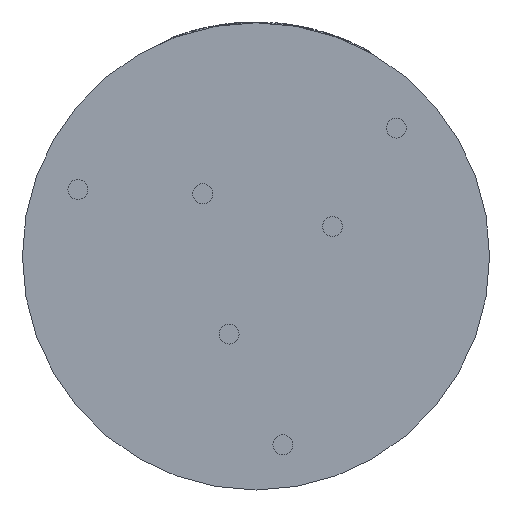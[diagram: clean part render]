
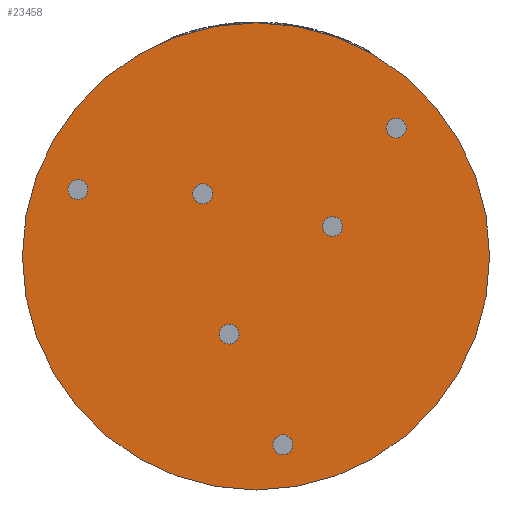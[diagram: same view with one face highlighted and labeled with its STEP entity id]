
A CAD part, front view. The second image highlights one B-rep face of the part: STEP entity #23458.
In plain terms, the highlighted planar face has unit normal (0, -1, 0).
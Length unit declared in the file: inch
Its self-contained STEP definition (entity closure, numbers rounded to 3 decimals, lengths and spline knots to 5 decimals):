
#118 = CARTESIAN_POINT ( 'NONE',  ( -0.27296, -0.25138, 0.32087 ) ) ;
#319 = FACE_BOUND ( 'NONE', #26623, .T. ) ;
#339 = CARTESIAN_POINT ( 'NONE',  ( -0.1378, -0.25138, -0.44907 ) ) ;
#659 = DIRECTION ( 'NONE',  ( 0., -1., 0. ) ) ;
#717 = CARTESIAN_POINT ( 'NONE',  ( 0., -0.25138, 0. ) ) ;
#1638 = EDGE_CURVE ( 'NONE', #24843, #20202, #19638, .T. ) ;
#2016 = ORIENTED_EDGE ( 'NONE', *, *, #8172, .F. ) ;
#2622 = CARTESIAN_POINT ( 'NONE',  ( -0.91237, -0.25138, 0.39311 ) ) ;
#2709 = VERTEX_POINT ( 'NONE', #10670 ) ;
#2942 = DIRECTION ( 'NONE',  ( 0., 0., 1. ) ) ;
#3770 = DIRECTION ( 'NONE',  ( 0., -1., 0. ) ) ;
#4044 = DIRECTION ( 'NONE',  ( 0., 0., 1. ) ) ;
#4046 = CARTESIAN_POINT ( 'NONE',  ( 0., -0.25138, 0. ) ) ;
#4177 = DIRECTION ( 'NONE',  ( 0., -1., 0. ) ) ;
#4471 = CARTESIAN_POINT ( 'NONE',  ( 0.1378, -0.25138, -0.91363 ) ) ;
#4706 = DIRECTION ( 'NONE',  ( 0., -1., 0. ) ) ;
#4792 = EDGE_CURVE ( 'NONE', #5567, #18355, #25924, .T. ) ;
#5003 = FACE_OUTER_BOUND ( 'NONE', #8618, .T. ) ;
#5093 = ORIENTED_EDGE ( 'NONE', *, *, #21778, .F. ) ;
#5118 = CARTESIAN_POINT ( 'NONE',  ( 0.1378, -0.25138, -0.96462 ) ) ;
#5169 = EDGE_CURVE ( 'NONE', #20565, #5575, #24056, .T. ) ;
#5448 = CIRCLE ( 'NONE', #17733, 0.05098 ) ;
#5539 = ORIENTED_EDGE ( 'NONE', *, *, #14325, .F. ) ;
#5567 = VERTEX_POINT ( 'NONE', #18319 ) ;
#5575 = VERTEX_POINT ( 'NONE', #339 ) ;
#5608 = CIRCLE ( 'NONE', #23639, 1.19685 ) ;
#5627 = DIRECTION ( 'NONE',  ( 0., 0., 1. ) ) ;
#5649 = CIRCLE ( 'NONE', #25829, 0.05098 ) ;
#6210 = ORIENTED_EDGE ( 'NONE', *, *, #19554, .F. ) ;
#6538 = AXIS2_PLACEMENT_3D ( 'NONE', #118, #28016, #2942 ) ;
#6670 = ORIENTED_EDGE ( 'NONE', *, *, #8939, .F. ) ;
#7434 = ORIENTED_EDGE ( 'NONE', *, *, #4792, .F. ) ;
#7588 = DIRECTION ( 'NONE',  ( 0., -1., 0. ) ) ;
#8123 = ORIENTED_EDGE ( 'NONE', *, *, #24764, .F. ) ;
#8172 = EDGE_CURVE ( 'NONE', #28780, #19454, #5608, .T. ) ;
#8437 = CARTESIAN_POINT ( 'NONE',  ( 0., -0.25138, 1.19685 ) ) ;
#8518 = CIRCLE ( 'NONE', #27859, 0.05098 ) ;
#8575 = CARTESIAN_POINT ( 'NONE',  ( 0., -0.25138, -1.19685 ) ) ;
#8599 = CARTESIAN_POINT ( 'NONE',  ( 0.39228, -0.25138, 0.15354 ) ) ;
#8618 = EDGE_LOOP ( 'NONE', ( #6670, #2016 ) ) ;
#8843 = DIRECTION ( 'NONE',  ( 0., 0., 1. ) ) ;
#8939 = EDGE_CURVE ( 'NONE', #19454, #28780, #9880, .T. ) ;
#9093 = CARTESIAN_POINT ( 'NONE',  ( 0.1378, -0.25138, -1.0156 ) ) ;
#9440 = AXIS2_PLACEMENT_3D ( 'NONE', #5118, #4177, #8843 ) ;
#9691 = CARTESIAN_POINT ( 'NONE',  ( -0.91237, -0.25138, 0.29114 ) ) ;
#9697 = VERTEX_POINT ( 'NONE', #14400 ) ;
#9880 = CIRCLE ( 'NONE', #12480, 1.19685 ) ;
#9897 = VERTEX_POINT ( 'NONE', #22514 ) ;
#9967 = AXIS2_PLACEMENT_3D ( 'NONE', #10852, #27107, #14526 ) ;
#10073 = DIRECTION ( 'NONE',  ( 0., 0., -1. ) ) ;
#10096 = EDGE_CURVE ( 'NONE', #18355, #5567, #24020, .T. ) ;
#10180 = DIRECTION ( 'NONE',  ( 0., -1., 0. ) ) ;
#10201 = EDGE_LOOP ( 'NONE', ( #27551, #11312 ) ) ;
#10670 = CARTESIAN_POINT ( 'NONE',  ( 0.71916, -0.25138, 0.70846 ) ) ;
#10852 = CARTESIAN_POINT ( 'NONE',  ( -0.27296, -0.25138, 0.32087 ) ) ;
#11312 = ORIENTED_EDGE ( 'NONE', *, *, #1638, .F. ) ;
#11852 = EDGE_LOOP ( 'NONE', ( #24642, #8123 ) ) ;
#12324 = FACE_BOUND ( 'NONE', #12755, .T. ) ;
#12360 = VERTEX_POINT ( 'NONE', #23931 ) ;
#12430 = EDGE_LOOP ( 'NONE', ( #5093, #5539 ) ) ;
#12480 = AXIS2_PLACEMENT_3D ( 'NONE', #717, #25285, #16438 ) ;
#12755 = EDGE_LOOP ( 'NONE', ( #7434, #20853 ) ) ;
#13900 = EDGE_CURVE ( 'NONE', #2709, #9697, #5649, .T. ) ;
#14213 = FACE_BOUND ( 'NONE', #12430, .T. ) ;
#14325 = EDGE_CURVE ( 'NONE', #16046, #21296, #8518, .T. ) ;
#14400 = CARTESIAN_POINT ( 'NONE',  ( 0.71916, -0.25138, 0.6065 ) ) ;
#14526 = DIRECTION ( 'NONE',  ( 0., 0., 1. ) ) ;
#14884 = CIRCLE ( 'NONE', #9440, 0.05098 ) ;
#15482 = DIRECTION ( 'NONE',  ( 0., -1., 0. ) ) ;
#15930 = DIRECTION ( 'NONE',  ( 0., 0., 1. ) ) ;
#16046 = VERTEX_POINT ( 'NONE', #9691 ) ;
#16158 = CARTESIAN_POINT ( 'NONE',  ( 0.39228, -0.25138, 0.15354 ) ) ;
#16320 = CARTESIAN_POINT ( 'NONE',  ( 0.71916, -0.25138, 0.65748 ) ) ;
#16385 = DIRECTION ( 'NONE',  ( 0., 0., 1. ) ) ;
#16438 = DIRECTION ( 'NONE',  ( 0., 0., -1. ) ) ;
#16595 = EDGE_CURVE ( 'NONE', #9897, #12360, #21866, .T. ) ;
#16669 = CARTESIAN_POINT ( 'NONE',  ( -0.91237, -0.25138, 0.34213 ) ) ;
#17112 = CARTESIAN_POINT ( 'NONE',  ( 0.71916, -0.25138, 0.65748 ) ) ;
#17114 = AXIS2_PLACEMENT_3D ( 'NONE', #19988, #7588, #23729 ) ;
#17733 = AXIS2_PLACEMENT_3D ( 'NONE', #8599, #15482, #15930 ) ;
#18319 = CARTESIAN_POINT ( 'NONE',  ( -0.27296, -0.25138, 0.37185 ) ) ;
#18355 = VERTEX_POINT ( 'NONE', #23029 ) ;
#18575 = EDGE_CURVE ( 'NONE', #9697, #2709, #27601, .T. ) ;
#18757 = DIRECTION ( 'NONE',  ( 0., 1., 0. ) ) ;
#18857 = AXIS2_PLACEMENT_3D ( 'NONE', #20198, #21599, #4044 ) ;
#19288 = CARTESIAN_POINT ( 'NONE',  ( 0., -0.25138, 0. ) ) ;
#19454 = VERTEX_POINT ( 'NONE', #8437 ) ;
#19554 = EDGE_CURVE ( 'NONE', #5575, #20565, #24419, .T. ) ;
#19638 = CIRCLE ( 'NONE', #27017, 0.05098 ) ;
#19723 = FACE_BOUND ( 'NONE', #28574, .T. ) ;
#19829 = CARTESIAN_POINT ( 'NONE',  ( -0.1378, -0.25138, -0.3471 ) ) ;
#19876 = CARTESIAN_POINT ( 'NONE',  ( -0.91237, -0.25138, 0.34213 ) ) ;
#19988 = CARTESIAN_POINT ( 'NONE',  ( -0.1378, -0.25138, -0.39809 ) ) ;
#20198 = CARTESIAN_POINT ( 'NONE',  ( -0.1378, -0.25138, -0.39809 ) ) ;
#20202 = VERTEX_POINT ( 'NONE', #4471 ) ;
#20546 = CIRCLE ( 'NONE', #28804, 0.05098 ) ;
#20565 = VERTEX_POINT ( 'NONE', #19829 ) ;
#20708 = PLANE ( 'NONE',  #27046 ) ;
#20853 = ORIENTED_EDGE ( 'NONE', *, *, #10096, .F. ) ;
#20961 = AXIS2_PLACEMENT_3D ( 'NONE', #16158, #10180, #23122 ) ;
#21048 = ORIENTED_EDGE ( 'NONE', *, *, #5169, .F. ) ;
#21296 = VERTEX_POINT ( 'NONE', #2622 ) ;
#21599 = DIRECTION ( 'NONE',  ( 0., -1., 0. ) ) ;
#21778 = EDGE_CURVE ( 'NONE', #21296, #16046, #20546, .T. ) ;
#21866 = CIRCLE ( 'NONE', #20961, 0.05098 ) ;
#22514 = CARTESIAN_POINT ( 'NONE',  ( 0.39228, -0.25138, 0.20453 ) ) ;
#23029 = CARTESIAN_POINT ( 'NONE',  ( -0.27296, -0.25138, 0.26988 ) ) ;
#23122 = DIRECTION ( 'NONE',  ( 0., 0., 1. ) ) ;
#23157 = DIRECTION ( 'NONE',  ( 0., 0., 1. ) ) ;
#23189 = ORIENTED_EDGE ( 'NONE', *, *, #13900, .F. ) ;
#23276 = DIRECTION ( 'NONE',  ( 0., 0., 1. ) ) ;
#23458 = ADVANCED_FACE ( 'NONE', ( #14213, #12324, #19723, #26316, #23481, #319, #5003 ), #20708, .T. ) ;
#23481 = FACE_BOUND ( 'NONE', #10201, .T. ) ;
#23628 = DIRECTION ( 'NONE',  ( 0., -1., 0. ) ) ;
#23639 = AXIS2_PLACEMENT_3D ( 'NONE', #4046, #18757, #10073 ) ;
#23729 = DIRECTION ( 'NONE',  ( 0., 0., 1. ) ) ;
#23931 = CARTESIAN_POINT ( 'NONE',  ( 0.39228, -0.25138, 0.10256 ) ) ;
#24020 = CIRCLE ( 'NONE', #6538, 0.05098 ) ;
#24056 = CIRCLE ( 'NONE', #18857, 0.05098 ) ;
#24419 = CIRCLE ( 'NONE', #17114, 0.05098 ) ;
#24642 = ORIENTED_EDGE ( 'NONE', *, *, #16595, .F. ) ;
#24682 = DIRECTION ( 'NONE',  ( 0., -1., 0. ) ) ;
#24764 = EDGE_CURVE ( 'NONE', #12360, #9897, #5448, .T. ) ;
#24843 = VERTEX_POINT ( 'NONE', #9093 ) ;
#25285 = DIRECTION ( 'NONE',  ( 0., 1., 0. ) ) ;
#25419 = AXIS2_PLACEMENT_3D ( 'NONE', #17112, #4706, #28344 ) ;
#25829 = AXIS2_PLACEMENT_3D ( 'NONE', #16320, #24682, #23276 ) ;
#25924 = CIRCLE ( 'NONE', #9967, 0.05098 ) ;
#26316 = FACE_BOUND ( 'NONE', #11852, .T. ) ;
#26341 = DIRECTION ( 'NONE',  ( 0., -1., 0. ) ) ;
#26623 = EDGE_LOOP ( 'NONE', ( #21048, #6210 ) ) ;
#27017 = AXIS2_PLACEMENT_3D ( 'NONE', #27606, #659, #16385 ) ;
#27046 = AXIS2_PLACEMENT_3D ( 'NONE', #19288, #26341, #27785 ) ;
#27107 = DIRECTION ( 'NONE',  ( 0., -1., 0. ) ) ;
#27412 = EDGE_CURVE ( 'NONE', #20202, #24843, #14884, .T. ) ;
#27458 = ORIENTED_EDGE ( 'NONE', *, *, #18575, .F. ) ;
#27551 = ORIENTED_EDGE ( 'NONE', *, *, #27412, .F. ) ;
#27601 = CIRCLE ( 'NONE', #25419, 0.05098 ) ;
#27606 = CARTESIAN_POINT ( 'NONE',  ( 0.1378, -0.25138, -0.96462 ) ) ;
#27785 = DIRECTION ( 'NONE',  ( 0., 0., -1. ) ) ;
#27859 = AXIS2_PLACEMENT_3D ( 'NONE', #16669, #3770, #5627 ) ;
#28016 = DIRECTION ( 'NONE',  ( 0., -1., 0. ) ) ;
#28344 = DIRECTION ( 'NONE',  ( 0., 0., 1. ) ) ;
#28574 = EDGE_LOOP ( 'NONE', ( #23189, #27458 ) ) ;
#28780 = VERTEX_POINT ( 'NONE', #8575 ) ;
#28804 = AXIS2_PLACEMENT_3D ( 'NONE', #19876, #23628, #23157 ) ;
